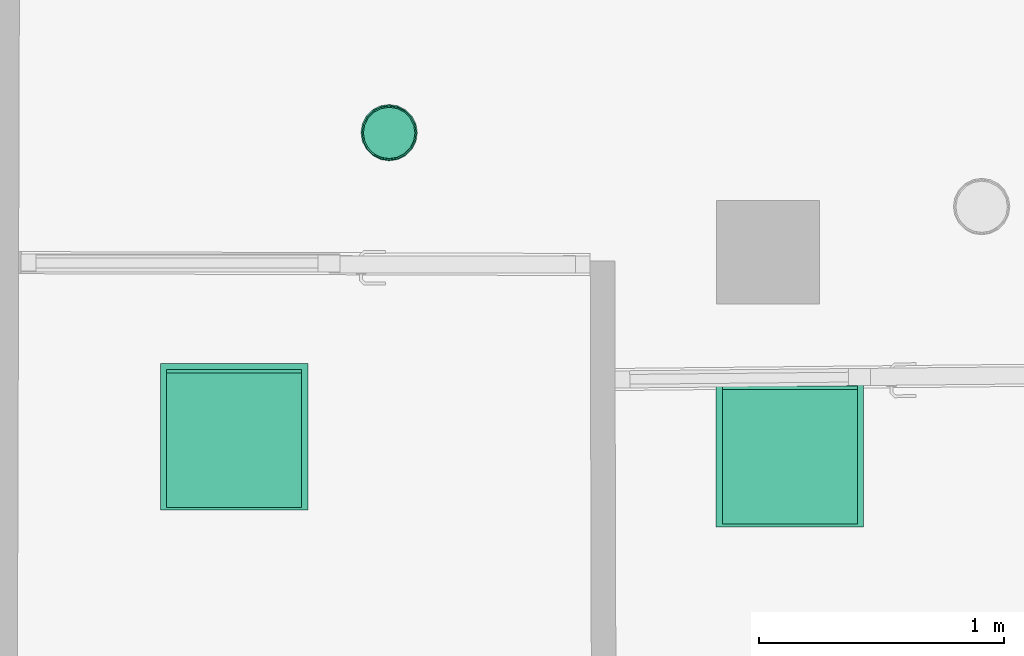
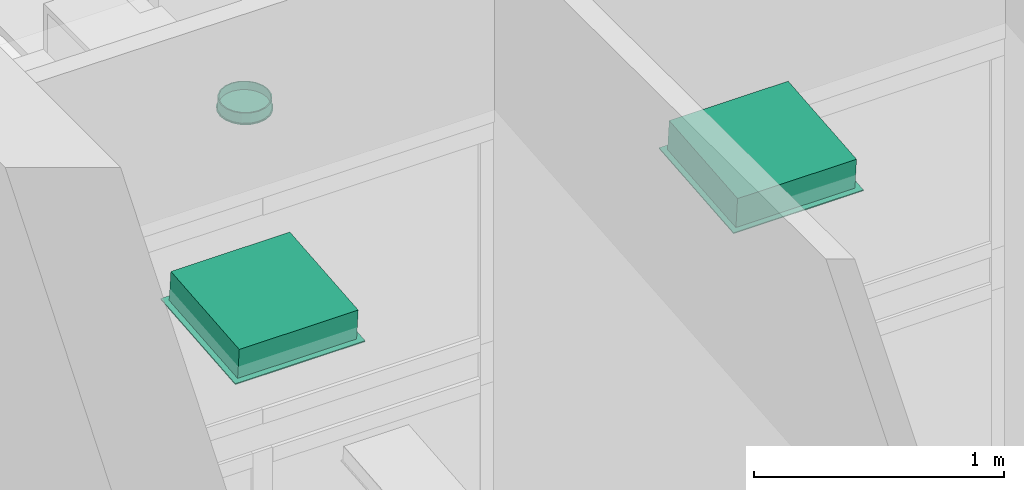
# One storey, part 70 of 128: 2 flow controllers, 1 flow terminal.
"""IFC2X3 building model written with IfcOpenShell, lengths in metres."""

import ifcopenshell
import ifcopenshell.guid

model = None  # the IFC model being written
_history = None  # IfcOwnerHistory: only IFC2X3 demands one
_inside = {}  # id of a spatial element -> (the spatial element, [elements in it])
_under = {}  # id of a project, library or spatial element -> (it, [spatial elements below it])
_declared = {}  # id of a project -> (the project, [libraries it declares])
_typed = {}  # id of a type object -> (the type object, [elements of that type])
_made_of = {}  # id of a material, layer set ... -> (it, [elements and type objects made of it])


def new_model(schema):
    """Start an empty IFC model of exactly this schema.

    Asked for "IFC4X3", IfcOpenShell would pick the latest addendum, in which some entities
    have other attributes; the version numbers below select the first issue.
    IFC2X3 requires an IfcOwnerHistory on every rooted entity: one is made here for all.
    """
    global model, _history
    if schema == "IFC4X3":
        model = ifcopenshell.file(schema_version=(4, 3, 0, 0))
    else:
        model = ifcopenshell.file(schema=schema)
    _inside.clear()
    _under.clear()
    _declared.clear()
    _typed.clear()
    _made_of.clear()
    _history = None
    if model.schema == "IFC2X3":
        org = make("IfcOrganization", Name="unknown")
        user = make(
            "IfcPersonAndOrganization",
            ThePerson=make("IfcPerson", FamilyName="unknown"),
            TheOrganization=org,
        )
        app = make(
            "IfcApplication",
            ApplicationDeveloper=org,
            Version="unknown",
            ApplicationFullName="unknown",
            ApplicationIdentifier="unknown",
        )
        _history = make(
            "IfcOwnerHistory",
            OwningUser=user,
            OwningApplication=app,
            ChangeAction="ADDED",
            CreationDate=0,
        )
    return model


def make(cls, **values):
    """One entity of the class cls with the attributes given. An attribute that is None is left unset."""
    return model.create_entity(
        cls, **{name: value for name, value in values.items() if value is not None}
    )


def entity(cls, *values):
    """Any entity or typed value of the class cls, its attributes in the order of the schema. None: left unset."""
    e = model.create_entity(cls)
    for i, value in enumerate(values):
        if value is not None:
            e[i] = value
    return e


def rooted(cls, **values):
    """An entity with a GlobalId (a new one), such as an element, a storey or a relation."""
    return make(cls, GlobalId=ifcopenshell.guid.new(), OwnerHistory=_history, **values)


def si_unit(unit_type, name, prefix=None):
    """IfcSIUnit, for example si_unit("LENGTHUNIT", "METRE", prefix="MILLI")."""
    return make("IfcSIUnit", UnitType=unit_type, Prefix=prefix, Name=name)


def converted_unit(unit_type, name, factor, base, dimensions=None, offset=None):
    """IfcConversionBasedUnit, such as the inch: factor (a typed value) times the base unit."""
    return make(
        "IfcConversionBasedUnit"
        if offset is None
        else "IfcConversionBasedUnitWithOffset",
        ConversionOffset=offset,
        Dimensions=None
        if dimensions is None
        else entity("IfcDimensionalExponents", *dimensions),
        UnitType=unit_type,
        Name=name,
        ConversionFactor=make(
            "IfcMeasureWithUnit", ValueComponent=factor, UnitComponent=base
        ),
    )


def derived_unit(unit_type, elements):
    """IfcDerivedUnit: a product of units, each with its exponent."""
    return make(
        "IfcDerivedUnit",
        Elements=[
            make("IfcDerivedUnitElement", Unit=unit, Exponent=power)
            for unit, power in elements
        ],
        UnitType=unit_type,
    )


def assignment(units):
    """IfcUnitAssignment: the units of a project."""
    return None if units is None else make("IfcUnitAssignment", Units=units)


def point(xyz):
    """IfcCartesianPoint."""
    return None if xyz is None else make("IfcCartesianPoint", Coordinates=xyz)


def direction(xyz):
    """IfcDirection."""
    return None if xyz is None else make("IfcDirection", DirectionRatios=xyz)


def frame(location, z_axis=None, x_axis=None):
    """IfcAxis2Placement3D, a coordinate frame: its origin and axes. An axis left out is left unset."""
    return make(
        "IfcAxis2Placement3D",
        Location=point(location),
        Axis=direction(z_axis),
        RefDirection=direction(x_axis),
    )


def origin():
    """The frame at (0, 0, 0) with its axes left unset."""
    return frame((0.0, 0.0, 0.0))


def place(relative_to, where):
    """IfcLocalPlacement: puts the frame where relative to a parent placement (None: the world)."""
    return make(
        "IfcLocalPlacement", PlacementRelTo=relative_to, RelativePlacement=where
    )


def context(
    kind, dimensions, precision=None, world=None, true_north=None, identifier=None
):
    """IfcGeometricRepresentationContext, for example the 3D "Model" context."""
    return make(
        "IfcGeometricRepresentationContext",
        ContextIdentifier=identifier,
        ContextType=kind,
        CoordinateSpaceDimension=dimensions,
        Precision=precision,
        WorldCoordinateSystem=world,
        TrueNorth=true_north,
    )


def subcontext(parent, identifier, kind, view, scale=None):
    """IfcGeometricRepresentationSubContext, for example "Body" below "Model"."""
    return make(
        "IfcGeometricRepresentationSubContext",
        ContextIdentifier=identifier,
        ContextType=kind,
        ParentContext=parent,
        TargetScale=scale,
        TargetView=view,
    )


def project(units=None, contexts=None):
    """IfcProject with its units and contexts."""
    return rooted(
        "IfcProject",
        Name="project",
        RepresentationContexts=contexts,
        UnitsInContext=assignment(units),
    )


def spatial(cls, under=None, at=None, **own):
    """A site, building, storey or space (cls), placed at a placement, below another one or the project."""
    s = rooted(cls, ObjectPlacement=at, **own)
    if under is not None:
        _under.setdefault(under.id(), (under, []))[1].append(s)
    return s


def faces_of(points, faces, orient=None, outer=None):
    """IfcFace entities. A face is a list of loops; a loop is a list of indices into points, from 0.

    orient and outer hold one flag for each loop. By default every Orientation is true, the
    first loop of a face is its IfcFaceOuterBound and the others are IfcFaceBound.
    """
    made = []
    for i, loops in enumerate(faces):
        bounds = []
        for j, loop in enumerate(loops):
            is_outer = j == 0 if outer is None else outer[i][j]
            bounds.append(
                make(
                    "IfcFaceOuterBound" if is_outer else "IfcFaceBound",
                    Bound=make("IfcPolyLoop", Polygon=[points[k] for k in loop]),
                    Orientation=True if orient is None else orient[i][j],
                )
            )
        made.append(make("IfcFace", Bounds=bounds))
    return made


def faceted_brep(points, faces, orient=None, outer=None, voids=None):
    """IfcFacetedBrep: a solid bounded by flat faces; with voids (closed shells), ...WithVoids."""
    shared = [point(p) for p in points]
    hull = make("IfcClosedShell", CfsFaces=faces_of(shared, faces, orient, outer))
    if voids is None:
        return make("IfcFacetedBrep", Outer=hull)
    return make(
        "IfcFacetedBrepWithVoids",
        Outer=hull,
        Voids=[
            make(cls, CfsFaces=faces_of(shared, fs, o, b)) for cls, fs, o, b in voids
        ],
    )


def shape(context_of_items, identifier, shape_type, items):
    """IfcShapeRepresentation: the items that make up one representation, for example the "Body"."""
    return make(
        "IfcShapeRepresentation",
        ContextOfItems=context_of_items,
        RepresentationIdentifier=identifier,
        RepresentationType=shape_type,
        Items=items,
    )


def source(mapping_origin, context_of_items, identifier, shape_type, items):
    """IfcRepresentationMap: a shape defined once, which mapped items show again and again."""
    return make(
        "IfcRepresentationMap",
        MappingOrigin=mapping_origin,
        MappedRepresentation=shape(context_of_items, identifier, shape_type, items),
    )


def transform(
    local_origin,
    x_axis=None,
    y_axis=None,
    z_axis=None,
    scale=None,
    scale2=None,
    scale3=None,
    uniform=True,
):
    """IfcCartesianTransformationOperator3D, or its non-uniform kind. x_axis, y_axis, z_axis: its Axis1, 2, 3."""
    if uniform:
        return make(
            "IfcCartesianTransformationOperator3D",
            Axis1=direction(x_axis),
            Axis2=direction(y_axis),
            LocalOrigin=point(local_origin),
            Scale=scale,
            Axis3=direction(z_axis),
        )
    return make(
        "IfcCartesianTransformationOperator3DnonUniform",
        Axis1=direction(x_axis),
        Axis2=direction(y_axis),
        LocalOrigin=point(local_origin),
        Scale=scale,
        Axis3=direction(z_axis),
        Scale2=scale2,
        Scale3=scale3,
    )


def mapped(mapping_source, mapping_target):
    """IfcMappedItem: shows the shape of a source again, moved by a transform."""
    return make(
        "IfcMappedItem", MappingSource=mapping_source, MappingTarget=mapping_target
    )


def material(Name=None, Category=None):
    """IfcMaterial."""
    return make("IfcMaterial", Name=Name, Category=Category)


def material_list(materials):
    """IfcMaterialList."""
    return make("IfcMaterialList", Materials=materials)


def made_of(thing, what):
    """Note that an element or type object is made of a material, layer set ...; save() writes the relation."""
    if what is not None:
        _made_of.setdefault(what.id(), (what, []))[1].append(thing)
    return thing


def type_object(cls, material=None, **own):
    """A type object (cls), such as IfcWallType, which elements share."""
    return made_of(rooted(cls, **own), material)


def type_shapes(of_type, sources):
    """Give a type object the sources (RepresentationMaps) that its elements show as mapped items."""
    of_type.RepresentationMaps = sources


def element(
    cls,
    number,
    at=None,
    inside=None,
    cuts=None,
    type_object=None,
    material=None,
    context=None,
    identifier="Body",
    shape_type=None,
    held_by="IfcProductDefinitionShape",
    body=None,
    shapes=None,
    **own,
):
    """One element of the class cls, such as IfcWall. Its Tag is "e" and its number.

    at: its placement. inside: the storey or other place that contains it. cuts: it is an
    opening in that element (IfcRelVoidsElement). A single representation is given by context,
    identifier, shape_type and body (its items); several are given by shapes. held_by: the class
    of the entity that holds the representations. save() writes the other relations.
    """
    e = rooted(cls, Tag="e%d" % number, ObjectPlacement=at, **own)
    if body is not None:
        shapes = [shape(context, identifier, shape_type, body)]
    if shapes is not None:
        e.Representation = make(held_by, Representations=shapes)
    if inside is not None:
        _inside.setdefault(inside.id(), (inside, []))[1].append(e)
    if cuts is not None:
        rooted(
            "IfcRelVoidsElement", RelatingBuildingElement=cuts, RelatedOpeningElement=e
        )
    if type_object is not None:
        _typed.setdefault(type_object.id(), (type_object, []))[1].append(e)
    return made_of(e, material)


def aggregate(whole, parts):
    """IfcRelAggregates: a whole, such as a stair, and the parts it consists of."""
    return rooted("IfcRelAggregates", RelatingObject=whole, RelatedObjects=parts)


def save(model, path):
    """Write the relations noted so far, then the file.

    IfcRelAggregates (storeys below a building ...), IfcRelContainedInSpatialStructure (elements
    in a storey), IfcRelDefinesByType, IfcRelAssociatesMaterial and IfcRelDeclares: one each for
    every whole, place, type object, material and project.
    """
    for whole, parts in _under.values():
        aggregate(whole, parts)
    for where, things in _inside.values():
        rooted(
            "IfcRelContainedInSpatialStructure",
            RelatedElements=things,
            RelatingStructure=where,
        )
    for kind, things in _typed.values():
        rooted("IfcRelDefinesByType", RelatedObjects=things, RelatingType=kind)
    for what, things in _made_of.values():
        rooted("IfcRelAssociatesMaterial", RelatedObjects=things, RelatingMaterial=what)
    for by, libraries in _declared.values():
        rooted("IfcRelDeclares", RelatingContext=by, RelatedDefinitions=libraries)
    model.write(path)


model = new_model("IFC2X3")

# Units and contexts
model_context = context("Model", 3, precision=1e-05, world=origin(), true_north=direction((6.123031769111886e-17, 1.0)))
body_context = subcontext(model_context, "Body", "Model", "MODEL_VIEW")
ifc_project = project(units=[si_unit("LENGTHUNIT", "METRE"), si_unit("AREAUNIT", "SQUARE_METRE"), converted_unit("PLANEANGLEUNIT", "DEGREE", entity("IfcPlaneAngleMeasure", 0.017453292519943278), si_unit("PLANEANGLEUNIT", "RADIAN"), dimensions=[0, 0, 0, 0, 0, 0, 0]), derived_unit("THERMALTRANSMITTANCEUNIT", [(si_unit("MASSUNIT", "GRAM", prefix="KILO"), 1), (si_unit("THERMODYNAMICTEMPERATUREUNIT", "KELVIN"), -1), (si_unit("TIMEUNIT", "SECOND"), -3)])], contexts=[model_context])

# Site, building, storey
site_placement = place(None, origin())
site = spatial("IfcSite", under=ifc_project, at=site_placement, Name="Default", CompositionType="ELEMENT")
building_placement = place(site_placement, origin())
building = spatial("IfcBuilding", under=site, at=building_placement, CompositionType="ELEMENT")
storey_placement = place(building_placement, origin())
storey = spatial("IfcBuildingStorey", under=building, at=storey_placement, Name="00_RDC CAF", CompositionType="ELEMENT", Elevation=2.4982504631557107e-13)

# Flow terminal
ifc_material_1 = material(Name="ARC - Eq Elec - Blanc")
light_fixture_type = type_object("IfcLightFixtureType", Name="Eq_Elec_Luminaire_Circulaire_LED_Encastre:Eq_Elec_Luminaire_Circulaire_LED_Encastre_D220x50mm", PredefinedType="NOTDEFINED", material=ifc_material_1)
shared_shape_1 = source(origin(), body_context, "Body", "Brep", [
    faceted_brep([(0.0, 0.10499999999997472, -0.010000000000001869), (0.02717599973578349, 0.10142221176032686, -0.010000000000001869), (0.05250000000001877, 0.09093266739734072, -0.010000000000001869), (0.07424621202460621, 0.07424621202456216, -0.010000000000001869), (0.09093266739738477, 0.05249999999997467, -0.010000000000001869), (0.10142221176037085, 0.027175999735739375, -0.010000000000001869), (0.10500000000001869, 0.0, -0.010000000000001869), (0.10142221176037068, -0.02717599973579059, -0.010000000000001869), (0.09093266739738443, -0.05250000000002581, -0.010000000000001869), (0.07424621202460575, -0.07424621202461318, -0.010000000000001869), (0.0525000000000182, -0.09093266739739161, -0.010000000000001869), (0.02717599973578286, -0.10142221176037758, -0.010000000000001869), (0.0, -0.10500000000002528, -0.010000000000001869), (-0.027175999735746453, -0.10142221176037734, -0.010000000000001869), (-0.052499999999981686, -0.09093266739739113, -0.010000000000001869), (-0.07424621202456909, -0.0742462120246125, -0.010000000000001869), (-0.09093266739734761, -0.052500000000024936, -0.010000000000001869), (-0.10142221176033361, -0.027175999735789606, -0.010000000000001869), (-0.10499999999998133, 0.0, -0.010000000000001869), (-0.1014222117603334, 0.027175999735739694, -0.010000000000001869), (-0.09093266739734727, 0.05249999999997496, -0.010000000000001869), (-0.07424621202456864, 0.07424621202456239, -0.010000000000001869), (-0.052499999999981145, 0.09093266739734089, -0.010000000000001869), (-0.027175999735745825, 0.10142221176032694, -0.010000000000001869), (0.02717599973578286, -0.10142221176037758, 0.0), (0.0525000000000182, -0.09093266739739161, 0.0), (0.07424621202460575, -0.07424621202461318, 0.0), (0.09093266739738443, -0.05250000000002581, 0.0), (0.10142221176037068, -0.02717599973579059, 0.0), (0.10500000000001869, 0.0, 0.0), (0.10142221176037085, 0.027175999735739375, 0.0), (0.09093266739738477, 0.05249999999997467, 0.0), (0.07424621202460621, 0.07424621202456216, 0.0), (0.05250000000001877, 0.09093266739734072, 0.0), (0.02717599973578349, 0.10142221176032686, 0.0), (0.0, 0.10499999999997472, 0.0), (-0.027175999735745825, 0.10142221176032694, 0.0), (-0.052499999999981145, 0.09093266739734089, 0.0), (-0.07424621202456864, 0.07424621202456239, 0.0), (-0.09093266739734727, 0.05249999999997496, 0.0), (-0.1014222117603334, 0.027175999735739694, 0.0), (-0.10499999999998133, 0.0, 0.0), (-0.10142221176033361, -0.027175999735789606, 0.0), (-0.09093266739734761, -0.052500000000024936, 0.0), (-0.07424621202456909, -0.0742462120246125, 0.0), (-0.052499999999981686, -0.09093266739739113, 0.0), (-0.027175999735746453, -0.10142221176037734, 0.0), (0.0, -0.10500000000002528, 0.0)], [[[0, 1, 2, 3, 4, 5, 6, 7, 8, 9, 10, 11, 12, 13, 14, 15, 16, 17, 18, 19, 20, 21, 22, 23]], [[24, 25, 26, 27, 28, 29, 30, 31, 32, 33, 34, 35, 36, 37, 38, 39, 40, 41, 42, 43, 44, 45, 46, 47]], [[17, 42, 41, 18]], [[16, 43, 42, 17]], [[45, 44, 15, 14]], [[16, 15, 44, 43]], [[46, 45, 14, 13]], [[47, 46, 13, 12]], [[11, 24, 47, 12]], [[10, 25, 24, 11]], [[27, 26, 9, 8]], [[10, 9, 26, 25]], [[28, 27, 8, 7]], [[29, 28, 7, 6]], [[5, 30, 29, 6]], [[4, 31, 30, 5]], [[33, 32, 3, 2]], [[4, 3, 32, 31]], [[34, 33, 2, 1]], [[35, 34, 1, 0]], [[23, 36, 35, 0]], [[22, 37, 36, 23]], [[19, 18, 41, 40]], [[21, 38, 37, 22]], [[39, 20, 19, 40]], [[39, 38, 21, 20]]]),
    faceted_brep([(-0.10999999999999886, 0.0, 0.0), (-0.10999999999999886, 0.0, -0.05000000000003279), (-0.10461621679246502, -0.033991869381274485, -0.05000000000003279), (-0.10461621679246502, -0.033991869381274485, 0.0), (-0.08899186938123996, -0.06465637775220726, 0.0), (-0.08899186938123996, -0.06465637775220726, -0.05000000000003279), (-0.06465637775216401, -0.08899186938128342, -0.05000000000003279), (-0.06465637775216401, -0.08899186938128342, 0.0), (-0.03399186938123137, -0.10461621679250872, -0.05000000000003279), (-0.03399186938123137, -0.10461621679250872, 0.0), (0.0, -0.11000000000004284, -0.05000000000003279), (0.0, -0.11000000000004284, 0.0), (0.033991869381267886, -0.10461621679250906, -0.05000000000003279), (0.06465637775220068, -0.08899186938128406, -0.05000000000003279), (0.06465637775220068, -0.08899186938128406, 0.0), (0.033991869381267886, -0.10461621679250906, 0.0), (0.10461621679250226, -0.03399186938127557, 0.0), (0.08899186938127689, -0.06465637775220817, 0.0), (0.08899186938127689, -0.06465637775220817, -0.05000000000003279), (0.10461621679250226, -0.03399186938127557, -0.05000000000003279), (0.11000000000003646, 0.0, 0.0), (0.11000000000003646, 0.0, -0.05000000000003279), (-0.1093714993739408, -0.03553695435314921, 0.0), (-0.1093714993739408, -0.03553695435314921, 0.004999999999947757), (-0.11135404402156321, -0.023019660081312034, 0.004999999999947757), (-0.11499999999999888, 0.0, 0.004999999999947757), (-0.11499999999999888, 0.0, 0.0), (-0.11218574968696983, -0.017768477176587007, 0.0), (-0.09303695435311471, -0.0675953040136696, 0.0), (-0.08031612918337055, -0.08031612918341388, 0.0), (-0.06759530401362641, -0.09303695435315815, 0.0), (-0.06759530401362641, -0.09303695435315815, 0.004999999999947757), (-0.08031612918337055, -0.08031612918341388, 0.004999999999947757), (-0.09303695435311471, -0.0675953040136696, 0.004999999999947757), (0.10120422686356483, -0.05156612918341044, 0.004999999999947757), (0.09303695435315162, -0.06759530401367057, 0.004999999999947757), (0.09303695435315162, -0.06759530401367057, 0.0), (0.10120422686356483, -0.05156612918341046, 0.0), (0.10937149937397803, -0.035536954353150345, 0.0), (0.10937149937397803, -0.035536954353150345, 0.004999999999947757), (0.08031612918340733, -0.0803161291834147, 0.004999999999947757), (0.06759530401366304, -0.09303695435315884, 0.004999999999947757), (0.06759530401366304, -0.09303695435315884, 0.0), (0.08031612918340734, -0.08031612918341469, 0.0), (-0.10120422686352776, -0.0515661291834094, 0.0), (-0.10120422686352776, -0.0515661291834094, 0.004999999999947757), (-0.051566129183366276, -0.10120422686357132, 0.0), (-0.03553695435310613, -0.1093714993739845, 0.0), (-0.03553695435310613, -0.1093714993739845, 0.004999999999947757), (-0.051566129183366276, -0.10120422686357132, 0.004999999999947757), (0.11500000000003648, 0.0, 0.004999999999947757), (0.11135404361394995, -0.02301966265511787, 0.004999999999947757), (0.11218574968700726, -0.01776847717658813, 0.0), (0.11500000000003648, 0.0, 0.0), (0.017768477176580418, -0.11218574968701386, 0.0), (0.0355369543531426, -0.10937149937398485, 0.0), (0.0355369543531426, -0.10937149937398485, 0.004999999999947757), (0.017768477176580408, -0.11218574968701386, 0.004999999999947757), (0.0, -0.11500000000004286, 0.004999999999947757), (0.0, -0.11500000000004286, 0.0), (-0.017768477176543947, -0.11218574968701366, 0.004999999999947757), (-0.017768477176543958, -0.11218574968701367, 0.0), (0.051566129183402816, -0.10120422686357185, 0.0), (0.051566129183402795, -0.10120422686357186, 0.004999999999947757), (-0.09986093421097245, -0.0324467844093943, -0.05000000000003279), (-0.1049999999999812, 0.0, -0.05000000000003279), (-0.1049999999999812, 0.0, 0.004999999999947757), (-0.09986093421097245, -0.0324467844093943, 0.004999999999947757), (-0.061717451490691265, -0.08494678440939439, -0.05000000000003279), (-0.08494678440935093, -0.06171745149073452, -0.05000000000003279), (-0.08494678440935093, -0.06171745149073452, 0.004999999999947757), (-0.061717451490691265, -0.08494678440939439, 0.004999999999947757), (-0.03244678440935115, -0.09986093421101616, 0.004999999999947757), (-0.03244678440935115, -0.09986093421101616, -0.05000000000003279), (0.0, -0.10500000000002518, 0.004999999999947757), (0.0, -0.10500000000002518, -0.05000000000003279), (0.06171745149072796, -0.08494678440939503, -0.05000000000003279), (0.03244678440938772, -0.0998609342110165, -0.05000000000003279), (0.03244678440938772, -0.0998609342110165, 0.004999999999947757), (0.06171745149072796, -0.08494678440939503, 0.004999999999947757), (0.09986093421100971, -0.03244678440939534, -0.05000000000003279), (0.0849467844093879, -0.06171745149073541, -0.05000000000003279), (0.0849467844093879, -0.06171745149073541, 0.004999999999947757), (0.09986093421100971, -0.03244678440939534, 0.004999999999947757), (0.1050000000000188, 0.0, -0.05000000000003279), (0.1050000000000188, 0.0, 0.004999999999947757), (0.10461621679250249, 0.03399186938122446, -0.05000000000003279), (0.10461621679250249, 0.03399186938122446, 0.0), (0.08899186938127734, 0.06465637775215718, 0.0), (0.08899186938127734, 0.06465637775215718, -0.05000000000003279), (0.0646563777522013, 0.08899186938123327, -0.05000000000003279), (0.0646563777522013, 0.08899186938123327, 0.0), (0.03399186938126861, 0.10461621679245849, -0.05000000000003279), (0.03399186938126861, 0.10461621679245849, 0.0), (0.0, 0.10999999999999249, -0.05000000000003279), (0.0, 0.10999999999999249, 0.0), (-0.033991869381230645, 0.1046162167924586, -0.05000000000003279), (-0.0646563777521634, 0.0889918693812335, -0.05000000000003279), (-0.0646563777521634, 0.0889918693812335, 0.0), (-0.033991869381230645, 0.1046162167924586, 0.0), (-0.10461621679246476, 0.03399186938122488, 0.0), (-0.0889918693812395, 0.06465637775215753, 0.0), (-0.0889918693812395, 0.06465637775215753, -0.05000000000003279), (-0.10461621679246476, 0.03399186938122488, -0.05000000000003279), (0.09986093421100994, 0.03244678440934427, -0.05000000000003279), (0.08494678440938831, 0.061717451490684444, -0.05000000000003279), (0.06171745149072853, 0.08494678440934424, -0.05000000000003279), (0.03244678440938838, 0.0998609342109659, -0.05000000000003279), (0.0, 0.1049999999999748, -0.05000000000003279), (-0.032446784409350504, 0.09986093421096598, -0.05000000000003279), (-0.061717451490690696, 0.0849467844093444, -0.05000000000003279), (-0.0849467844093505, 0.06171745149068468, -0.05000000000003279), (-0.0998609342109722, 0.03244678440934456, -0.05000000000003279), (0.10937149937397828, 0.035536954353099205, 0.0), (0.10937149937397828, 0.035536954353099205, 0.004999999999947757), (0.11135404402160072, 0.023019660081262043, 0.004999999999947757), (0.11218574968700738, 0.017768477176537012, 0.0), (0.0930369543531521, 0.06759530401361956, 0.0), (0.0803161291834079, 0.0803161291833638, 0.0), (0.06759530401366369, 0.093036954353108, 0.0), (0.06759530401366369, 0.093036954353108, 0.004999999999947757), (0.0803161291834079, 0.0803161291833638, 0.004999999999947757), (0.0930369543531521, 0.06759530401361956, 0.004999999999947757), (-0.1012042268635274, 0.05156612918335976, 0.004999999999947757), (-0.09303695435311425, 0.06759530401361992, 0.004999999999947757), (-0.09303695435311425, 0.06759530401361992, 0.0), (-0.1012042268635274, 0.05156612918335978, 0.0), (-0.10937149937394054, 0.03553695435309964, 0.0), (-0.10937149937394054, 0.03553695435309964, 0.004999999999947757), (-0.08031612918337, 0.0803161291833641, 0.004999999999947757), (-0.06759530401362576, 0.09303695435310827, 0.004999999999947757), (-0.06759530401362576, 0.09303695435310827, 0.0), (-0.08031612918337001, 0.08031612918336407, 0.0), (0.1012042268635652, 0.05156612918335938, 0.0), (0.1012042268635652, 0.05156612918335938, 0.004999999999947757), (0.051566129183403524, 0.10120422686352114, 0.0), (0.03553695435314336, 0.10937149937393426, 0.0), (0.03553695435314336, 0.10937149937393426, 0.004999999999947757), (0.051566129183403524, 0.10120422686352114, 0.004999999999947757), (-0.11135404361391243, 0.023019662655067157, 0.004999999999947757), (-0.11218574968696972, 0.017768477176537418, 0.0), (-0.0177684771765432, 0.11218574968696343, 0.0), (-0.035536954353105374, 0.1093714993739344, 0.0), (-0.035536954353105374, 0.1093714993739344, 0.004999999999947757), (-0.017768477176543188, 0.11218574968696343, 0.004999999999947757), (0.0, 0.1149999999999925, 0.004999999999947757), (0.0, 0.1149999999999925, 0.0), (0.017768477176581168, 0.11218574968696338, 0.004999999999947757), (0.017768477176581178, 0.11218574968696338, 0.0), (-0.05156612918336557, 0.10120422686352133, 0.0), (-0.05156612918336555, 0.10120422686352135, 0.004999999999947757), (0.09986093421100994, 0.03244678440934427, 0.004999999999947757), (0.08494678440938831, 0.061717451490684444, 0.004999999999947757), (0.06171745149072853, 0.08494678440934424, 0.004999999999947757), (0.03244678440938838, 0.0998609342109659, 0.004999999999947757), (0.0, 0.1049999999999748, 0.004999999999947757), (-0.032446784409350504, 0.09986093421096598, 0.004999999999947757), (-0.061717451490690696, 0.0849467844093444, 0.004999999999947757), (-0.0849467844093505, 0.06171745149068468, 0.004999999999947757), (-0.0998609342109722, 0.03244678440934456, 0.004999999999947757)], [[[0, 1, 2, 3]], [[4, 5, 6, 7]], [[2, 5, 4, 3]], [[6, 8, 9, 7]], [[9, 8, 10, 11]], [[12, 13, 14, 15]], [[16, 17, 18, 19]], [[18, 17, 14, 13]], [[20, 16, 19, 21]], [[15, 11, 10, 12]], [[22, 23, 24, 25, 26, 27]], [[28, 29, 30, 31, 32, 33]], [[34, 35, 36, 37, 38, 39]], [[40, 41, 42, 43, 36, 35]], [[22, 44, 28, 33, 45, 23]], [[30, 46, 47, 48, 49, 31]], [[50, 51, 39, 38, 52, 53]], [[54, 55, 56, 57, 58, 59]], [[60, 48, 47, 61, 59, 58]], [[55, 62, 42, 41, 63, 56]], [[64, 65, 66, 67]], [[68, 69, 70, 71]], [[67, 70, 69, 64]], [[71, 72, 73, 68]], [[74, 75, 73, 72]], [[76, 77, 78, 79]], [[80, 81, 82, 83]], [[82, 81, 76, 79]], [[84, 80, 83, 85]], [[78, 77, 75, 74]], [[20, 21, 86, 87]], [[88, 89, 90, 91]], [[86, 89, 88, 87]], [[90, 92, 93, 91]], [[93, 92, 94, 95]], [[96, 97, 98, 99]], [[100, 101, 102, 103]], [[102, 101, 98, 97]], [[0, 100, 103, 1]], [[99, 95, 94, 96]], [[64, 69, 5]], [[5, 2, 64]], [[64, 2, 65]], [[6, 5, 69]], [[69, 68, 6]], [[68, 73, 6]], [[8, 6, 73]], [[73, 75, 8]], [[10, 8, 75]], [[10, 75, 77]], [[77, 12, 10]], [[77, 76, 12]], [[13, 12, 76]], [[81, 13, 76]], [[13, 81, 18]], [[80, 18, 81]], [[18, 80, 19]], [[84, 19, 80]], [[21, 19, 84]], [[104, 21, 84]], [[86, 21, 104]], [[104, 105, 86]], [[89, 86, 105]], [[106, 89, 105]], [[89, 106, 90]], [[92, 90, 106]], [[106, 107, 92]], [[92, 107, 94]], [[107, 108, 94]], [[94, 108, 96]], [[108, 109, 96]], [[97, 96, 109]], [[109, 110, 97]], [[102, 97, 110]], [[110, 111, 102]], [[102, 111, 103]], [[112, 103, 111]], [[103, 112, 1]], [[112, 65, 1]], [[1, 65, 2]], [[113, 114, 115, 50, 53, 116]], [[117, 118, 119, 120, 121, 122]], [[123, 124, 125, 126, 127, 128]], [[129, 130, 131, 132, 125, 124]], [[113, 133, 117, 122, 134, 114]], [[119, 135, 136, 137, 138, 120]], [[25, 139, 128, 127, 140, 26]], [[141, 142, 143, 144, 145, 146]], [[147, 137, 136, 148, 146, 145]], [[142, 149, 131, 130, 150, 143]], [[33, 70, 67]], [[70, 33, 32]], [[67, 45, 33]], [[70, 32, 31]], [[31, 71, 70]], [[31, 72, 71]], [[72, 31, 49]], [[72, 49, 48]], [[48, 74, 72]], [[74, 48, 60]], [[74, 60, 58]], [[78, 74, 58]], [[78, 58, 57]], [[78, 57, 56]], [[56, 79, 78]], [[79, 56, 63]], [[79, 63, 41]], [[79, 41, 82]], [[82, 41, 40]], [[82, 40, 35]], [[82, 35, 83]], [[83, 35, 34]], [[83, 34, 39]], [[83, 39, 85]], [[85, 39, 51]], [[85, 51, 50]], [[85, 50, 151]], [[151, 50, 115]], [[151, 115, 114]], [[114, 152, 151]], [[152, 114, 134]], [[152, 134, 122]], [[152, 122, 153]], [[153, 122, 121]], [[153, 121, 120]], [[153, 120, 138]], [[153, 138, 137]], [[137, 154, 153]], [[154, 137, 147]], [[154, 147, 145]], [[145, 155, 154]], [[155, 145, 144]], [[155, 144, 143]], [[143, 156, 155]], [[156, 143, 150]], [[156, 150, 130]], [[130, 157, 156]], [[157, 130, 129]], [[157, 129, 124]], [[124, 158, 157]], [[158, 124, 123]], [[158, 123, 128]], [[158, 128, 159]], [[159, 128, 139]], [[159, 139, 25]], [[25, 66, 159]], [[66, 25, 24]], [[66, 24, 23]], [[23, 67, 66]], [[67, 23, 45]], [[104, 84, 85, 151]], [[106, 105, 152, 153]], [[151, 152, 105, 104]], [[153, 154, 107, 106]], [[155, 108, 107, 154]], [[110, 109, 156, 157]], [[112, 111, 158, 159]], [[158, 111, 110, 157]], [[65, 112, 159, 66]], [[156, 109, 108, 155]], [[3, 4, 28]], [[3, 28, 44]], [[3, 44, 22]], [[3, 22, 0]], [[4, 29, 28]], [[4, 30, 29]], [[4, 7, 30]], [[7, 9, 30]], [[9, 46, 30]], [[9, 47, 46]], [[9, 11, 47]], [[11, 61, 47]], [[11, 59, 61]], [[59, 11, 15]], [[15, 54, 59]], [[15, 55, 54]], [[15, 14, 55]], [[14, 62, 55]], [[14, 42, 62]], [[17, 42, 14]], [[17, 43, 42]], [[17, 36, 43]], [[16, 36, 17]], [[16, 37, 36]], [[16, 38, 37]], [[20, 38, 16]], [[20, 52, 38]], [[20, 53, 52]], [[87, 53, 20]], [[87, 116, 53]], [[87, 113, 116]], [[87, 88, 113]], [[88, 133, 113]], [[88, 117, 133]], [[91, 117, 88]], [[91, 118, 117]], [[91, 119, 118]], [[91, 135, 119]], [[91, 136, 135]], [[91, 93, 136]], [[93, 148, 136]], [[93, 146, 148]], [[93, 95, 146]], [[95, 141, 146]], [[95, 142, 141]], [[95, 99, 142]], [[99, 149, 142]], [[99, 131, 149]], [[99, 98, 131]], [[98, 132, 131]], [[98, 125, 132]], [[98, 101, 125]], [[101, 126, 125]], [[101, 127, 126]], [[100, 127, 101]], [[100, 0, 26]], [[100, 26, 140]], [[100, 140, 127]], [[0, 22, 27]], [[0, 27, 26]]]),
])
type_shapes(light_fixture_type, [shared_shape_1])
flow_terminal_placement = place(storey_placement, frame((8.189233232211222, 137.03882940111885, 3.356495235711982), z_axis=(0.0, 0.029986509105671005, -0.9995503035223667), x_axis=(1.0, 0.0, 0.0)))
element("IfcFlowTerminal", 1, at=flow_terminal_placement, inside=storey, type_object=light_fixture_type, material=ifc_material_1, Name="Eq_Elec_Luminaire_Circulaire_LED_Encastre:Eq_Elec_Luminaire_Circulaire_LED_Encastre_D220x50mm", ObjectType="Eq_Elec_Luminaire_Circulaire_LED_Encastre:Eq_Elec_Luminaire_Circulaire_LED_Encastre_D220x50mm", context=body_context, shape_type="MappedRepresentation", body=[
    mapped(shared_shape_1, transform((0.0, 0.0, 0.0), scale=1.0)),
])

# Flow controllers
ifc_material_2 = material(Name="ARC - Eq CVC - Blanc")
ifc_material_3 = material(Name="<Unnamed>")
ifc_material_list = material_list([ifc_material_2, ifc_material_3])
air_terminal_box_type = type_object("IfcAirTerminalBoxType", Name="Eq_CVC_Bouche_circulaire_soufflage_base carre:Eq_CVC_Bouche_circulaire_soufflage_D350mm_base carre_600x600mm", PredefinedType="NOTDEFINED", material=ifc_material_list)
shared_shape_2 = source(origin(), body_context, "Body", "Brep", [
    faceted_brep([(-0.27499999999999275, 0.27499999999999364, -0.050000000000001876), (-0.10825317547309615, 0.06250000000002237, -0.050000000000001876), (-0.12074072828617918, 0.03235238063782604, -0.050000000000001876), (-0.08838834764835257, 0.0883883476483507, -0.050000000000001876), (-0.124999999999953, 0.0, -0.050000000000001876), (-0.06250000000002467, 0.10825317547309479, -0.050000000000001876), (-0.032352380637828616, 0.12074072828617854, -0.050000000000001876), (0.0, 0.12500000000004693, -0.050000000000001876), (0.2750000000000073, 0.27499999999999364, -0.050000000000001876), (-0.27499999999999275, -0.27500000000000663, -0.050000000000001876), (0.0323523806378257, 0.12074072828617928, -0.050000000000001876), (0.06250000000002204, 0.10825317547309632, -0.050000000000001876), (0.08838834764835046, 0.08838834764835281, -0.050000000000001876), (0.10825317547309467, 0.06250000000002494, -0.050000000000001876), (0.12074072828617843, 0.03235238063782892, -0.050000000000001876), (0.12500000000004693, 0.0, -0.050000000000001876), (0.2750000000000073, -0.27500000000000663, -0.050000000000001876), (0.12074072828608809, -0.03235238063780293, -0.050000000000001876), (0.10825317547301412, -0.06249999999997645, -0.050000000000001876), (0.08838834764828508, -0.08838834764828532, -0.050000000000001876), (0.06249999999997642, -0.10825317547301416, -0.050000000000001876), (0.03235238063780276, -0.12074072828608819, -0.050000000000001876), (0.0, -0.12499999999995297, -0.050000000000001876), (-0.12074072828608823, -0.032352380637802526, -0.050000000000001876), (-0.10825317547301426, -0.06249999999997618, -0.050000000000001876), (-0.08838834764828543, -0.08838834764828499, -0.050000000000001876), (-0.062499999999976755, -0.10825317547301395, -0.050000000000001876), (-0.03235238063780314, -0.12074072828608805, -0.050000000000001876), (0.2750000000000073, 0.27499999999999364, 0.0), (0.15155444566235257, 0.08750000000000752, 0.0), (0.1690370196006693, 0.04529333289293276, 0.0), (0.12374368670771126, 0.12374368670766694, 0.0), (0.17499999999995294, 0.0, 0.0), (0.08750000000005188, 0.15155444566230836, 0.0), (0.045293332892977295, 0.16903701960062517, 0.0), (0.0, 0.17500000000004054, 0.0), (-0.27499999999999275, 0.27499999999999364, 0.0), (0.2750000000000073, -0.27500000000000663, 0.0), (-0.045293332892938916, 0.16903701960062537, 0.0), (-0.08750000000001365, 0.15155444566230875, 0.0), (-0.12374368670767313, 0.1237436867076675, 0.0), (-0.1515544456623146, 0.08750000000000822, 0.0), (-0.1690370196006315, 0.04529333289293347, 0.0), (-0.17500000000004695, 0.0, 0.0), (-0.27499999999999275, -0.27500000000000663, 0.0), (-0.16903701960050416, -0.045293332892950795, 0.0), (-0.15155444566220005, -0.08749999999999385, 0.0), (-0.12374368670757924, -0.12374368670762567, 0.0), (-0.08749999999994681, -0.15155444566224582, 0.0), (-0.04529333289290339, -0.16903701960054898, 0.0), (0.0, -0.17499999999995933, 0.0), (0.1690370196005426, -0.04529333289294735, 0.0), (0.15155444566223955, -0.08749999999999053, 0.0), (0.12374368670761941, -0.1237436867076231, 0.0), (0.08749999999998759, -0.151554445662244, 0.0), (0.04529333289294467, -0.16903701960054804, 0.0)], [[[0, 1, 2]], [[1, 0, 3]], [[0, 2, 4]], [[5, 3, 0]], [[6, 5, 0]], [[7, 6, 0]], [[0, 8, 7]], [[4, 9, 0]], [[10, 7, 8]], [[11, 10, 8]], [[12, 11, 8]], [[8, 13, 12]], [[13, 8, 14]], [[15, 14, 8]], [[8, 16, 15]], [[17, 15, 16]], [[18, 17, 16]], [[16, 19, 18]], [[19, 16, 20]], [[21, 20, 16]], [[22, 21, 16]], [[22, 16, 9]], [[9, 4, 23]], [[9, 23, 24]], [[24, 25, 9]], [[25, 26, 9]], [[26, 27, 9]], [[9, 27, 22]], [[28, 29, 30]], [[29, 28, 31]], [[28, 30, 32]], [[33, 31, 28]], [[34, 33, 28]], [[35, 34, 28]], [[28, 36, 35]], [[32, 37, 28]], [[38, 35, 36]], [[39, 38, 36]], [[40, 39, 36]], [[36, 41, 40]], [[41, 36, 42]], [[43, 42, 36]], [[36, 44, 43]], [[45, 43, 44]], [[46, 45, 44]], [[44, 47, 46]], [[47, 44, 48]], [[49, 48, 44]], [[50, 49, 44]], [[50, 44, 37]], [[37, 32, 51]], [[37, 51, 52]], [[52, 53, 37]], [[53, 54, 37]], [[54, 55, 37]], [[37, 55, 50]], [[36, 28, 8, 0]], [[44, 36, 0, 9]], [[37, 44, 9, 16]], [[28, 37, 16, 8]], [[47, 25, 24, 46]], [[46, 24, 23, 45]], [[27, 26, 48, 49]], [[27, 49, 50, 22]], [[48, 26, 25, 47]], [[45, 23, 4, 43]], [[54, 53, 19, 20]], [[55, 54, 20, 21]], [[51, 32, 15, 17]], [[52, 51, 17, 18]], [[53, 52, 18, 19]], [[55, 21, 22, 50]], [[31, 12, 13, 29]], [[29, 13, 14, 30]], [[10, 11, 33, 34]], [[10, 34, 35, 7]], [[33, 11, 12, 31]], [[30, 14, 15, 32]], [[39, 40, 3, 5]], [[38, 39, 5, 6]], [[42, 43, 4, 2]], [[41, 42, 2, 1]], [[40, 41, 1, 3]], [[38, 6, 7, 35]]]),
    faceted_brep([(0.30000000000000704, 0.29999999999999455, 0.0), (0.30000000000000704, 0.2999999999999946, 0.0049999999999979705), (0.30000000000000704, -0.30000000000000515, 0.0049999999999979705), (0.30000000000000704, -0.30000000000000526, 0.0), (-0.29999999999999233, -0.30000000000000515, 0.0049999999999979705), (-0.29999999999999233, -0.30000000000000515, 0.0), (-0.29999999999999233, 0.2999999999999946, 0.0049999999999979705), (-0.29999999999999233, 0.2999999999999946, 0.0), (0.2750000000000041, -0.27500000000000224, 0.0049999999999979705), (-0.2749999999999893, -0.27500000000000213, 0.0049999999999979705), (-0.2749999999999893, 0.27499999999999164, 0.0049999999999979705), (0.2750000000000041, 0.27499999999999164, 0.0049999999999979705), (0.2750000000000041, 0.27499999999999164, 0.0), (0.2750000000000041, -0.2750000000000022, 0.0), (-0.2749999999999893, -0.27500000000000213, 0.0), (-0.2749999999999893, 0.27499999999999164, 0.0)], [[[0, 1, 2, 3]], [[3, 2, 4, 5]], [[5, 4, 6, 7]], [[7, 6, 1, 0]], [[1, 6, 4, 2], [8, 9, 10, 11]], [[11, 12, 13, 8]], [[8, 13, 14, 9]], [[9, 14, 15, 10]], [[3, 5, 7, 0], [12, 15, 14, 13]], [[10, 15, 12, 11]]]),
    faceted_brep([(-0.27499999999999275, -0.27500000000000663, -0.15000000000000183), (-0.27499999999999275, 0.27499999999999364, -0.15000000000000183), (0.2750000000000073, 0.27499999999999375, -0.15000000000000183), (0.2750000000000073, -0.27500000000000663, -0.15000000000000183), (-0.27499999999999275, -0.27500000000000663, -0.05000000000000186), (0.2750000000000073, -0.27500000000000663, -0.05000000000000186), (0.2750000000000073, 0.27499999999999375, -0.05000000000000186), (-0.27499999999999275, 0.27499999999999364, -0.05000000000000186)], [[[0, 1, 2, 3]], [[4, 5, 6, 7]], [[5, 4, 0, 3]], [[6, 5, 3, 2]], [[7, 6, 2, 1]], [[4, 7, 1, 0]]]),
])
type_shapes(air_terminal_box_type, [shared_shape_2])
for number, where, z_axis, x_axis, name in (
    (2, (7.557873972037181, 135.79951441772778, 3.290431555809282), (7.058602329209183e-06, 0.08963769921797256, -0.9959744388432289), (1.0, -1.260349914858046e-06, 6.973700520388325e-06), "Eq_CVC_Bouche_circulaire_soufflage_base carre:Eq_CVC_Bouche_circulaire_soufflage_D350mm_base carre_600x600mm"),
    (3, (9.821616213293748, 135.7320486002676, 3.2757175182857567), (-0.00024496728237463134, 0.0896373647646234, -0.9959744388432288), (0.9999999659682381, -6.742766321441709e-05, -0.00025202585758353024), "Eq_CVC_Bouche_circulaire_soufflage_base carre:Eq_CVC_Bouche_circulaire_soufflage_D350mm_base carre_600x600mm"),
):
    element("IfcFlowController", number, at=place(storey_placement, frame(where, z_axis=z_axis, x_axis=x_axis)), inside=storey, type_object=air_terminal_box_type, material=ifc_material_list, Name=name, ObjectType="Eq_CVC_Bouche_circulaire_soufflage_base carre:Eq_CVC_Bouche_circulaire_soufflage_D350mm_base carre_600x600mm", context=body_context, shape_type="MappedRepresentation", body=[
        mapped(shared_shape_2, transform((0.0, 0.0, 0.0), scale=1.0)),
    ])

save(model, "model.ifc")
